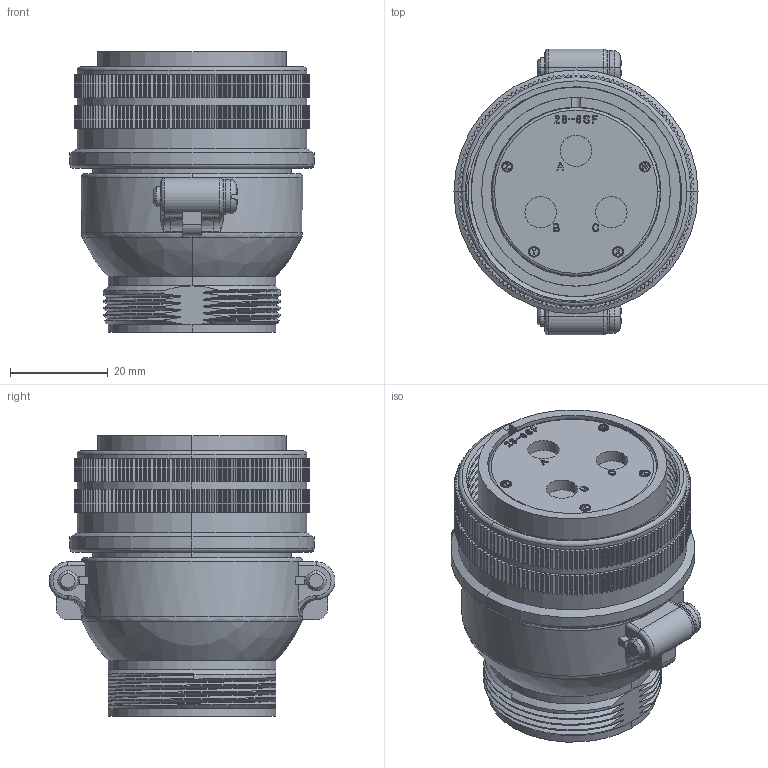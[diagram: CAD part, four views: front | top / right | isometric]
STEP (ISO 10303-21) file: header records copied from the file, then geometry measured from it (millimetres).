
FILE_DESCRIPTION (( 'STEP AP203' ), '1' );
FILE_NAME ('DMS3106B28-6S.STEP', '2017-11-06T02:23:49', ( '' ), ( '' ), 'SwSTEP 2.0', 'SolidWorks 2015', '' );
FILE_SCHEMA (( 'CONFIG_CONTROL_DESIGN' ));
Length unit declared in the file: millimetre
Products named in the file (1): DMS3106B28-6S
Bounding box: 49.95 x 58.54 x 57.51 mm (x, y, z)
Volume: 56480.1 mm3; surface area: 33404.1 mm2
Topology: 1 solids, 1 shells, 2861 faces, 8290 edges, 5500 vertices
Faces by surface type: cylinder 1521, plane 977, bspline 311, torus 26, cone 18, sphere 8
Entity records: 113438 total; most frequent: CARTESIAN_POINT 37403, ORIENTED_EDGE 16580, DIRECTION 15766, EDGE_CURVE 8290, AXIS2_PLACEMENT_3D 5684, VERTEX_POINT 5500, LINE 4398, VECTOR 4398
